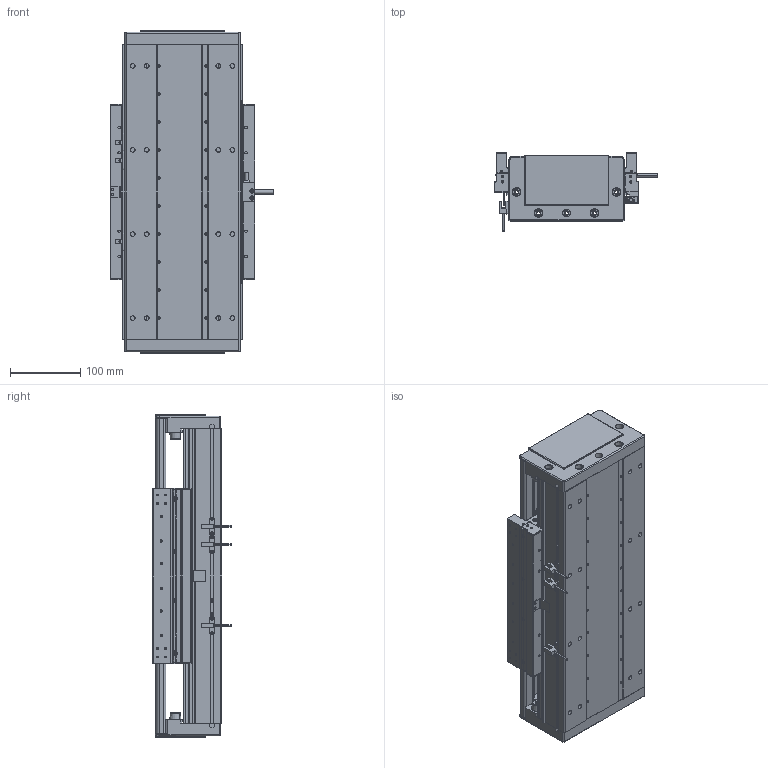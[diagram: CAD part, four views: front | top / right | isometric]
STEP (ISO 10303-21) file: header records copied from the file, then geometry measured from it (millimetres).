
FILE_DESCRIPTION (( 'STEP AP203' ), '1' );
FILE_NAME ('DA-C165-C3-T120-C010-0.2 直线电机.STEP', '2023-06-13T08:37:24', ( '微软用户' ), ( '微软中国' ), 'SwSTEP 2.0', 'SolidWorks 2019', '' );
FILE_SCHEMA (( 'CONFIG_CONTROL_DESIGN' ));
Length unit declared in the file: millimetre
Products named in the file (15): 复件 六角薄螺母 M3^DA-C165-C3-T-C010-0.2-N 直线电机_GB_FASTENER_NUT_STNAB M3-C; 葩璃 CKM01-W075-TRL^DA-C165-C3-T-C010-0.2-N 眻盄萇儂; IU-CU165-L 菁釱絳寢; 复件 DMA-010-0.2 读数头^DA-C165-C3-T-C010-0.2-N 直线电机; 复件 CU165 底座^IU-CU165-L 底座导轨_L420; 复件 DA165-GYP-00 光电感应片^DA-C165-C3-T-C010-0.2-N 直线电机; 复件 DA95-HXJ-00 缓冲橡胶^DA-C165-C3-T-C010-0.2-N 直线电机; DA-C165-C3-T120-C010-0.2 眻盄萇儂; 葩璃 PM-T45^DA-C165-C3-T-C010-0.2-N 眻盄萇儂; 葩璃 CKM03-W075-C1C2-TP-3.0^DA-C165-C3-T-C010-0.2-N 眻盄萇儂; 复件 XD-U-02L 磁栅尺^DA-C165-C3-T-C010-0.2-N 直线电机_T; 复件 DA165-T-002-00 盖板^DA-C165-C3-T-C010-0.2-N 直线电机_0840-002-00; 复件 DA165-DG-H-N-00 端盖^DA-C165-C3-T-C010-0.2-N 直线电机; 珨极趙賑雄怢啣C3-wf; 葩璃 DA95-GT-T-00^IU-CU165-L 菁釱絳寢_T
Assembly tree (30 placements, depth 3):
  DA-C165-C3-T120-C010-0.2 眻盄萇儂
    IU-CU165-L 菁釱絳寢
      复件 CU165 底座^IU-CU165-L 底座导轨_L420
      葩璃 DA95-GT-T-00^IU-CU165-L 菁釱絳寢_T  x4
    复件 DA165-DG-H-N-00 端盖^DA-C165-C3-T-C010-0.2-N 直线电机  x2
    复件 DA95-HXJ-00 缓冲橡胶^DA-C165-C3-T-C010-0.2-N 直线电机  x4
    复件 DA165-T-002-00 盖板^DA-C165-C3-T-C010-0.2-N 直线电机_0840-002-00
    复件 XD-U-02L 磁栅尺^DA-C165-C3-T-C010-0.2-N 直线电机_T
    葩璃 PM-T45^DA-C165-C3-T-C010-0.2-N 眻盄萇儂  x3
    葩璃 CKM01-W075-TRL^DA-C165-C3-T-C010-0.2-N 眻盄萇儂
    复件 DA165-GYP-00 光电感应片^DA-C165-C3-T-C010-0.2-N 直线电机
    复件 DMA-010-0.2 读数头^DA-C165-C3-T-C010-0.2-N 直线电机
    葩璃 CKM03-W075-C1C2-TP-3.0^DA-C165-C3-T-C010-0.2-N 眻盄萇儂
    复件 六角薄螺母 M3^DA-C165-C3-T-C010-0.2-N 直线电机_GB_FASTENER_NUT_STNAB M3-C  x8
    珨极趙賑雄怢啣C3-wf
Bounding box: 233 x 111.45 x 460 mm (x, y, z)
Volume: 5020932 mm3; surface area: 1194500.2 mm2
Topology: 68 solids, 118 shells, 3255 faces, 8392 edges, 5144 vertices
Faces by surface type: cylinder 1490, plane 1155, cone 552, torus 54, sphere 4
Entity records: 90237 total; most frequent: CARTESIAN_POINT 19482, DIRECTION 14874, ORIENTED_EDGE 13838, EDGE_CURVE 6919, AXIS2_PLACEMENT_3D 5598, VERTEX_POINT 4432, LINE 3678, VECTOR 3678
